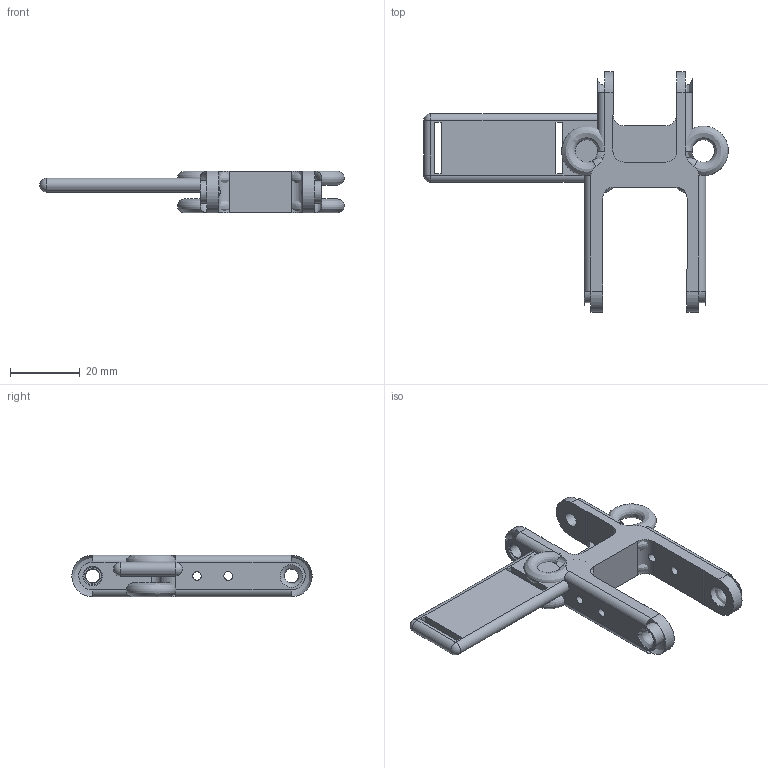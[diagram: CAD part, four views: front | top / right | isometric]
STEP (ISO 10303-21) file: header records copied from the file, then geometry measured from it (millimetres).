
FILE_DESCRIPTION(('Open CASCADE Model'),'2;1');
FILE_NAME('Open CASCADE Shape Model','2026-11-14T12:11:58',('Author'),( 'Open CASCADE'),'Open CASCADE STEP processor 8.0','Open CASCADE 8.0' ,'Unknown');
FILE_SCHEMA(('AUTOMOTIVE_DESIGN { 1 0 10303 214 1 1 1 1 }'));
Length unit declared in the file: millimetre
Products named in the file (1): Open CASCADE STEP translator 8.0 4
Bounding box: 87.57 x 69.15 x 12 mm (x, y, z)
Volume: 9335.8 mm3; surface area: 11236.5 mm2
Topology: 1 solids, 1 shells, 83 faces, 251 edges, 156 vertices
Faces by surface type: cylinder 37, plane 30, revolution 12, cone 2, sphere 2
Full cylindrical faces by diameter (mm): 2.5 x4, 4.2 x2, 6.5 x2
Entity records: 8290 total; most frequent: CARTESIAN_POINT 3327, DIRECTION 920, LINE 518, VECTOR 518, ORIENTED_EDGE 498, PCURVE 498, DEFINITIONAL_REPRESENTATION 498, EDGE_CURVE 249
